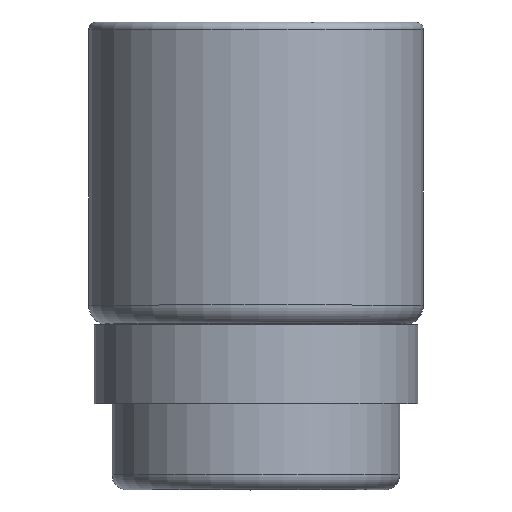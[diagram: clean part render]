
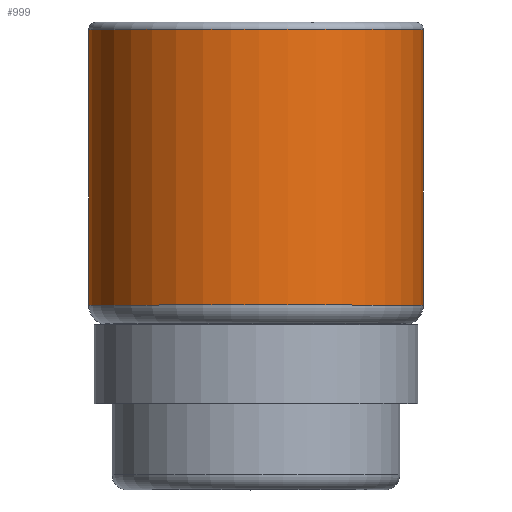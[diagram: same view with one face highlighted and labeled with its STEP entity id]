
A CAD part, top view. The second image highlights one B-rep face of the part: STEP entity #999.
In plain terms, the highlighted cylindrical face has radius 34 mm (diameter 68 mm), a full revolution.
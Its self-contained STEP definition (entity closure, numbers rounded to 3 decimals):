
#33=CYLINDRICAL_SURFACE('',#1128,34.);
#56=LINE('',#1739,#85);
#85=VECTOR('',#1389,34.);
#151=FACE_OUTER_BOUND('',#205,.T.);
#205=EDGE_LOOP('',(#762,#763,#764,#765,#766,#767,#768,#769));
#304=CIRCLE('',#1129,34.);
#305=CIRCLE('',#1130,34.);
#306=CIRCLE('',#1131,34.);
#307=CIRCLE('',#1132,34.);
#308=CIRCLE('',#1133,34.);
#309=CIRCLE('',#1134,34.);
#414=VERTEX_POINT('',#1733);
#415=VERTEX_POINT('',#1734);
#416=VERTEX_POINT('',#1736);
#417=VERTEX_POINT('',#1738);
#418=VERTEX_POINT('',#1740);
#419=VERTEX_POINT('',#1742);
#547=EDGE_CURVE('',#414,#415,#304,.T.);
#548=EDGE_CURVE('',#415,#416,#305,.T.);
#549=EDGE_CURVE('',#416,#417,#56,.T.);
#550=EDGE_CURVE('',#417,#418,#306,.T.);
#551=EDGE_CURVE('',#418,#419,#307,.T.);
#552=EDGE_CURVE('',#417,#419,#308,.T.);
#553=EDGE_CURVE('',#416,#414,#309,.T.);
#762=ORIENTED_EDGE('',*,*,#547,.T.);
#763=ORIENTED_EDGE('',*,*,#548,.T.);
#764=ORIENTED_EDGE('',*,*,#549,.T.);
#765=ORIENTED_EDGE('',*,*,#550,.T.);
#766=ORIENTED_EDGE('',*,*,#551,.T.);
#767=ORIENTED_EDGE('',*,*,#552,.F.);
#768=ORIENTED_EDGE('',*,*,#549,.F.);
#769=ORIENTED_EDGE('',*,*,#553,.T.);
#999=ADVANCED_FACE('',(#151),#33,.T.);
#1128=AXIS2_PLACEMENT_3D('',#1732,#1383,#1384);
#1129=AXIS2_PLACEMENT_3D('',#1735,#1385,#1386);
#1130=AXIS2_PLACEMENT_3D('',#1737,#1387,#1388);
#1131=AXIS2_PLACEMENT_3D('',#1741,#1390,#1391);
#1132=AXIS2_PLACEMENT_3D('',#1743,#1392,#1393);
#1133=AXIS2_PLACEMENT_3D('',#1744,#1394,#1395);
#1134=AXIS2_PLACEMENT_3D('',#1745,#1396,#1397);
#1383=DIRECTION('center_axis',(0.,1.,0.));
#1384=DIRECTION('ref_axis',(-0.977,0.,0.212));
#1385=DIRECTION('center_axis',(0.,1.,0.));
#1386=DIRECTION('ref_axis',(-0.977,0.,0.212));
#1387=DIRECTION('center_axis',(0.,1.,0.));
#1388=DIRECTION('ref_axis',(-0.977,0.,0.212));
#1389=DIRECTION('',(0.,1.,0.));
#1390=DIRECTION('center_axis',(0.,-1.,0.));
#1391=DIRECTION('ref_axis',(0.977,0.,-0.212));
#1392=DIRECTION('center_axis',(0.,-1.,0.));
#1393=DIRECTION('ref_axis',(0.977,0.,-0.212));
#1394=DIRECTION('center_axis',(0.,1.,0.));
#1395=DIRECTION('ref_axis',(0.977,0.,-0.212));
#1396=DIRECTION('center_axis',(0.,1.,0.));
#1397=DIRECTION('ref_axis',(-0.977,0.,0.212));
#1732=CARTESIAN_POINT('Origin',(45.507,39.15,0.607));
#1733=CARTESIAN_POINT('',(12.279,11.15,7.81));
#1734=CARTESIAN_POINT('',(79.507,11.15,0.607));
#1735=CARTESIAN_POINT('Origin',(45.507,11.15,0.607));
#1736=CARTESIAN_POINT('',(78.735,11.15,-6.596));
#1737=CARTESIAN_POINT('Origin',(45.507,11.15,0.607));
#1738=CARTESIAN_POINT('',(78.735,67.15,-6.596));
#1739=CARTESIAN_POINT('',(78.735,39.15,-6.596));
#1740=CARTESIAN_POINT('',(79.507,67.15,0.607));
#1741=CARTESIAN_POINT('Origin',(45.507,67.15,0.607));
#1742=CARTESIAN_POINT('',(12.279,67.15,7.81));
#1743=CARTESIAN_POINT('Origin',(45.507,67.15,0.607));
#1744=CARTESIAN_POINT('Origin',(45.507,67.15,0.607));
#1745=CARTESIAN_POINT('Origin',(45.507,11.15,0.607));
